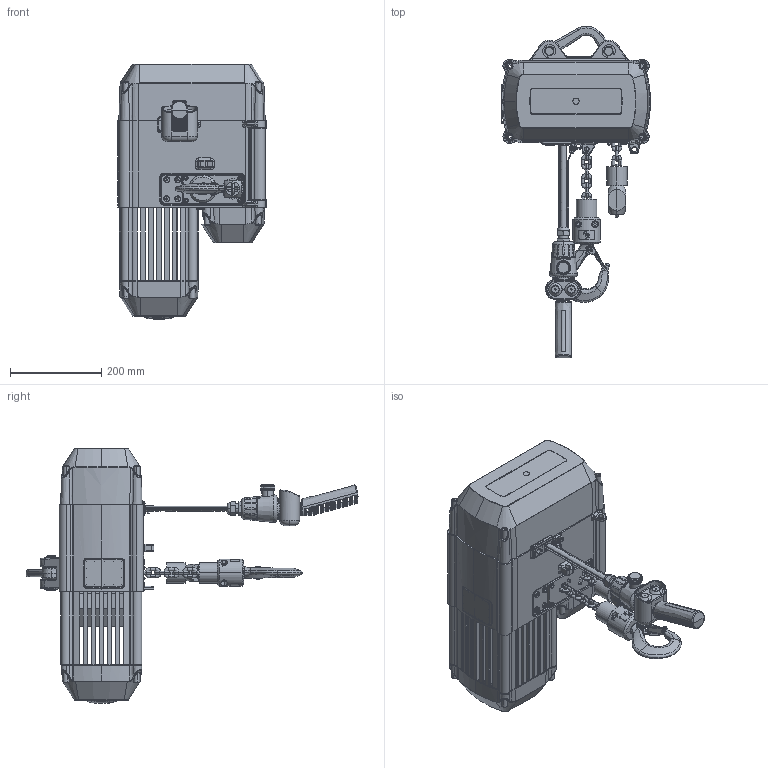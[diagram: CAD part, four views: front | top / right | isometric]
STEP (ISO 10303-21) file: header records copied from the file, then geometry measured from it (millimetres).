
FILE_DESCRIPTION (( 'STEP AP203' ), '1' );
FILE_NAME ('CPVF 10-8.STEP', '2013-04-09T06:27:24', ( '' ), ( '' ), 'SwSTEP 2.0', 'SolidWorks 2011', '' );
FILE_SCHEMA (( 'CONFIG_CONTROL_DESIGN' ));
Length unit declared in the file: millimetre
Products named in the file (1): CPVF 10-8
Bounding box: 326 x 727.53 x 559 mm (x, y, z)
Surface area: 1096043.6 mm2 (no closed solid volume)
Topology: 0 solids, 167 shells, 2799 faces, 10894 edges, 7968 vertices
Faces by surface type: plane 964, cylinder 761, bspline 530, cone 259, torus 249, sphere 36
Entity records: 180334 total; most frequent: CARTESIAN_POINT 96892, DIRECTION 16317, ORIENTED_EDGE 15899, EDGE_CURVE 10820, VERTEX_POINT 7930, AXIS2_PLACEMENT_3D 5856, LINE 4605, VECTOR 4605
